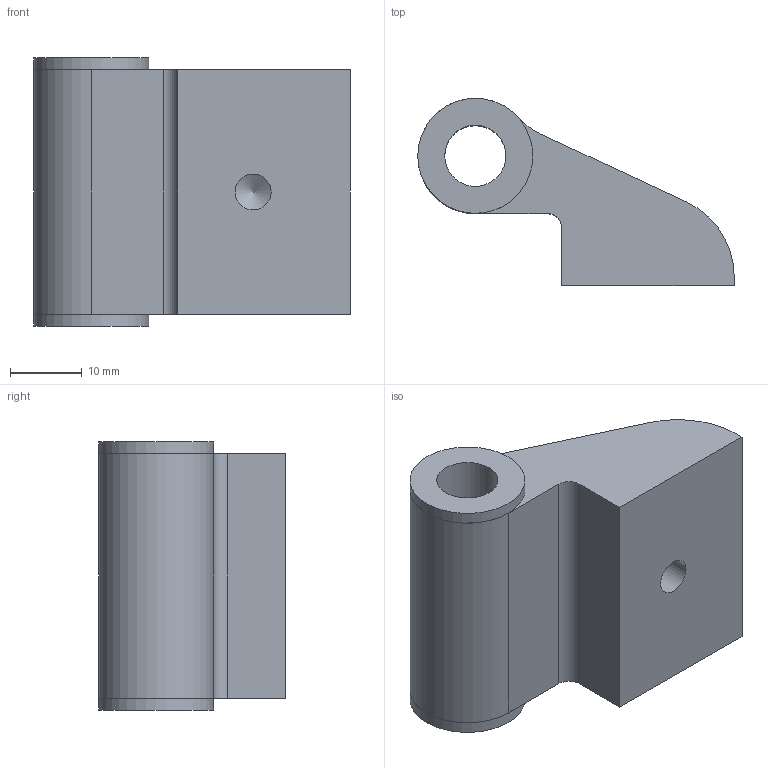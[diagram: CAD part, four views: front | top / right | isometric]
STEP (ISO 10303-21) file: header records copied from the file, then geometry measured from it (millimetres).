
FILE_DESCRIPTION (( 'STEP AP214' ), '1' );
FILE_NAME ('N50114.step', '2024-12-03T16:27:23', ( '' ), ( '' ), 'SwSTEP 2.0', 'SolidWorks 2023', '' );
FILE_SCHEMA (( 'AUTOMOTIVE_DESIGN' ));
Length unit declared in the file: millimetre
Products named in the file (1): N50114
Bounding box: 44 x 26 x 37.3 mm (x, y, z)
Volume: 18278.4 mm3; surface area: 9050.5 mm2
Topology: 3 solids, 3 shells, 26 faces, 57 edges, 39 vertices
Faces by surface type: plane 13, cylinder 12, cone 1
Full cylindrical faces by diameter (mm): 5 x1, 8.5 x2, 10.25 x3, 16 x2
Entity records: 692 total; most frequent: DIRECTION 121, CARTESIAN_POINT 104, ORIENTED_EDGE 86, AXIS2_PLACEMENT_3D 51, EDGE_CURVE 43, EDGE_LOOP 43, FACE_OUTER_BOUND 34, VERTEX_POINT 34
